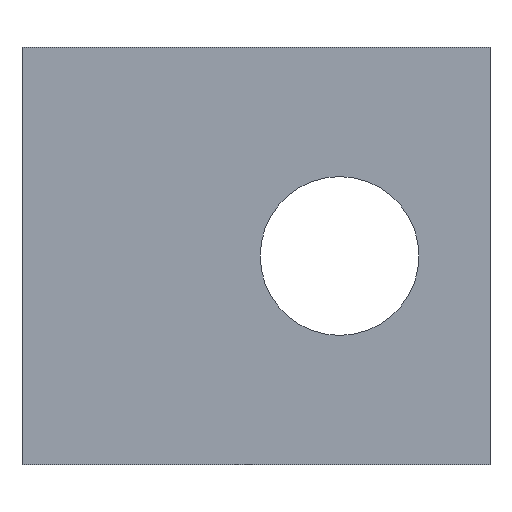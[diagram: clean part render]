
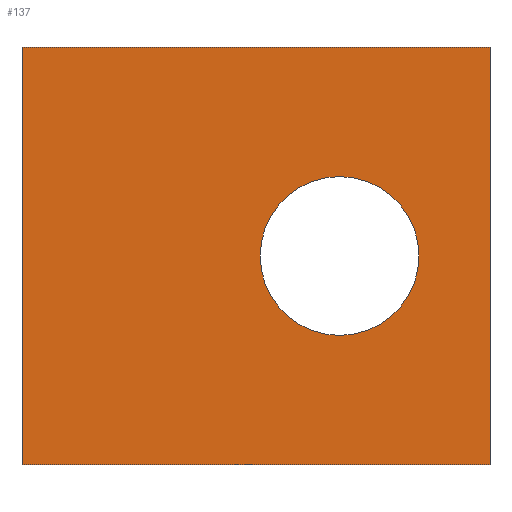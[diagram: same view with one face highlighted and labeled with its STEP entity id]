
A CAD part, front view. The second image highlights one B-rep face of the part: STEP entity #137.
In plain terms, the highlighted planar face has unit normal (0, -1, 0).
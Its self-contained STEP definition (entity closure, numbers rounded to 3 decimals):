
#21 = EDGE_CURVE('',#22,#24,#26,.T.);
#22 = VERTEX_POINT('',#23);
#23 = CARTESIAN_POINT('',(16.7,-4.4,20.9));
#24 = VERTEX_POINT('',#25);
#25 = CARTESIAN_POINT('',(16.7,-4.4,25.9));
#26 = SURFACE_CURVE('',#27,(#31,#43),.PCURVE_S1.);
#27 = LINE('',#28,#29);
#28 = CARTESIAN_POINT('',(16.7,-4.4,20.9));
#29 = VECTOR('',#30,1.);
#30 = DIRECTION('',(0.,0.,1.));
#31 = PCURVE('',#32,#37);
#32 = PLANE('',#33);
#33 = AXIS2_PLACEMENT_3D('',#34,#35,#36);
#34 = CARTESIAN_POINT('',(16.7,-4.4,20.9));
#35 = DIRECTION('',(1.,0.,0.));
#36 = DIRECTION('',(0.,0.,1.));
#37 = DEFINITIONAL_REPRESENTATION('',(#38),#42);
#38 = LINE('',#39,#40);
#39 = CARTESIAN_POINT('',(0.,0.));
#40 = VECTOR('',#41,1.);
#41 = DIRECTION('',(1.,0.));
#42 = ( GEOMETRIC_REPRESENTATION_CONTEXT(2) 
PARAMETRIC_REPRESENTATION_CONTEXT() REPRESENTATION_CONTEXT('2D SPACE',''
  ) );
#43 = PCURVE('',#44,#49);
#44 = PLANE('',#45);
#45 = AXIS2_PLACEMENT_3D('',#46,#47,#48);
#46 = CARTESIAN_POINT('',(16.7,-4.4,20.9));
#47 = DIRECTION('',(0.,1.,0.));
#48 = DIRECTION('',(0.,0.,1.));
#49 = DEFINITIONAL_REPRESENTATION('',(#50),#54);
#50 = LINE('',#51,#52);
#51 = CARTESIAN_POINT('',(0.,0.));
#52 = VECTOR('',#53,1.);
#53 = DIRECTION('',(1.,0.));
#54 = ( GEOMETRIC_REPRESENTATION_CONTEXT(2) 
PARAMETRIC_REPRESENTATION_CONTEXT() REPRESENTATION_CONTEXT('2D SPACE',''
  ) );
#72 = PLANE('',#73);
#73 = AXIS2_PLACEMENT_3D('',#74,#75,#76);
#74 = CARTESIAN_POINT('',(16.7,-4.4,20.9));
#75 = DIRECTION('',(0.,0.,1.));
#76 = DIRECTION('',(1.,0.,0.));
#126 = PLANE('',#127);
#127 = AXIS2_PLACEMENT_3D('',#128,#129,#130);
#128 = CARTESIAN_POINT('',(16.7,-4.4,25.9));
#129 = DIRECTION('',(0.,0.,1.));
#130 = DIRECTION('',(1.,0.,0.));
#137 = ADVANCED_FACE('',(#138,#213),#44,.F.);
#138 = FACE_BOUND('',#139,.F.);
#139 = EDGE_LOOP('',(#140,#163,#164,#187));
#140 = ORIENTED_EDGE('',*,*,#141,.F.);
#141 = EDGE_CURVE('',#22,#142,#144,.T.);
#142 = VERTEX_POINT('',#143);
#143 = CARTESIAN_POINT('',(22.3,-4.4,20.9));
#144 = SURFACE_CURVE('',#145,(#149,#156),.PCURVE_S1.);
#145 = LINE('',#146,#147);
#146 = CARTESIAN_POINT('',(16.7,-4.4,20.9));
#147 = VECTOR('',#148,1.);
#148 = DIRECTION('',(1.,0.,0.));
#149 = PCURVE('',#44,#150);
#150 = DEFINITIONAL_REPRESENTATION('',(#151),#155);
#151 = LINE('',#152,#153);
#152 = CARTESIAN_POINT('',(0.,0.));
#153 = VECTOR('',#154,1.);
#154 = DIRECTION('',(0.,1.));
#155 = ( GEOMETRIC_REPRESENTATION_CONTEXT(2) 
PARAMETRIC_REPRESENTATION_CONTEXT() REPRESENTATION_CONTEXT('2D SPACE',''
  ) );
#156 = PCURVE('',#72,#157);
#157 = DEFINITIONAL_REPRESENTATION('',(#158),#162);
#158 = LINE('',#159,#160);
#159 = CARTESIAN_POINT('',(0.,0.));
#160 = VECTOR('',#161,1.);
#161 = DIRECTION('',(1.,0.));
#162 = ( GEOMETRIC_REPRESENTATION_CONTEXT(2) 
PARAMETRIC_REPRESENTATION_CONTEXT() REPRESENTATION_CONTEXT('2D SPACE',''
  ) );
#163 = ORIENTED_EDGE('',*,*,#21,.T.);
#164 = ORIENTED_EDGE('',*,*,#165,.T.);
#165 = EDGE_CURVE('',#24,#166,#168,.T.);
#166 = VERTEX_POINT('',#167);
#167 = CARTESIAN_POINT('',(22.3,-4.4,25.9));
#168 = SURFACE_CURVE('',#169,(#173,#180),.PCURVE_S1.);
#169 = LINE('',#170,#171);
#170 = CARTESIAN_POINT('',(16.7,-4.4,25.9));
#171 = VECTOR('',#172,1.);
#172 = DIRECTION('',(1.,0.,0.));
#173 = PCURVE('',#44,#174);
#174 = DEFINITIONAL_REPRESENTATION('',(#175),#179);
#175 = LINE('',#176,#177);
#176 = CARTESIAN_POINT('',(5.,0.));
#177 = VECTOR('',#178,1.);
#178 = DIRECTION('',(0.,1.));
#179 = ( GEOMETRIC_REPRESENTATION_CONTEXT(2) 
PARAMETRIC_REPRESENTATION_CONTEXT() REPRESENTATION_CONTEXT('2D SPACE',''
  ) );
#180 = PCURVE('',#126,#181);
#181 = DEFINITIONAL_REPRESENTATION('',(#182),#186);
#182 = LINE('',#183,#184);
#183 = CARTESIAN_POINT('',(0.,0.));
#184 = VECTOR('',#185,1.);
#185 = DIRECTION('',(1.,0.));
#186 = ( GEOMETRIC_REPRESENTATION_CONTEXT(2) 
PARAMETRIC_REPRESENTATION_CONTEXT() REPRESENTATION_CONTEXT('2D SPACE',''
  ) );
#187 = ORIENTED_EDGE('',*,*,#188,.F.);
#188 = EDGE_CURVE('',#142,#166,#189,.T.);
#189 = SURFACE_CURVE('',#190,(#194,#201),.PCURVE_S1.);
#190 = LINE('',#191,#192);
#191 = CARTESIAN_POINT('',(22.3,-4.4,20.9));
#192 = VECTOR('',#193,1.);
#193 = DIRECTION('',(0.,0.,1.));
#194 = PCURVE('',#44,#195);
#195 = DEFINITIONAL_REPRESENTATION('',(#196),#200);
#196 = LINE('',#197,#198);
#197 = CARTESIAN_POINT('',(0.,5.6));
#198 = VECTOR('',#199,1.);
#199 = DIRECTION('',(1.,0.));
#200 = ( GEOMETRIC_REPRESENTATION_CONTEXT(2) 
PARAMETRIC_REPRESENTATION_CONTEXT() REPRESENTATION_CONTEXT('2D SPACE',''
  ) );
#201 = PCURVE('',#202,#207);
#202 = PLANE('',#203);
#203 = AXIS2_PLACEMENT_3D('',#204,#205,#206);
#204 = CARTESIAN_POINT('',(22.3,-4.4,20.9));
#205 = DIRECTION('',(1.,0.,0.));
#206 = DIRECTION('',(0.,0.,1.));
#207 = DEFINITIONAL_REPRESENTATION('',(#208),#212);
#208 = LINE('',#209,#210);
#209 = CARTESIAN_POINT('',(0.,0.));
#210 = VECTOR('',#211,1.);
#211 = DIRECTION('',(1.,0.));
#212 = ( GEOMETRIC_REPRESENTATION_CONTEXT(2) 
PARAMETRIC_REPRESENTATION_CONTEXT() REPRESENTATION_CONTEXT('2D SPACE',''
  ) );
#213 = FACE_BOUND('',#214,.F.);
#214 = EDGE_LOOP('',(#215));
#215 = ORIENTED_EDGE('',*,*,#216,.F.);
#216 = EDGE_CURVE('',#217,#217,#219,.T.);
#217 = VERTEX_POINT('',#218);
#218 = CARTESIAN_POINT('',(21.45,-4.4,23.4));
#219 = SURFACE_CURVE('',#220,(#225,#232),.PCURVE_S1.);
#220 = CIRCLE('',#221,0.95);
#221 = AXIS2_PLACEMENT_3D('',#222,#223,#224);
#222 = CARTESIAN_POINT('',(20.5,-4.4,23.4));
#223 = DIRECTION('',(-0.,1.,0.));
#224 = DIRECTION('',(1.,0.,0.));
#225 = PCURVE('',#44,#226);
#226 = DEFINITIONAL_REPRESENTATION('',(#227),#231);
#227 = CIRCLE('',#228,0.95);
#228 = AXIS2_PLACEMENT_2D('',#229,#230);
#229 = CARTESIAN_POINT('',(2.5,3.8));
#230 = DIRECTION('',(0.,1.));
#231 = ( GEOMETRIC_REPRESENTATION_CONTEXT(2) 
PARAMETRIC_REPRESENTATION_CONTEXT() REPRESENTATION_CONTEXT('2D SPACE',''
  ) );
#232 = PCURVE('',#233,#238);
#233 = CYLINDRICAL_SURFACE('',#234,0.95);
#234 = AXIS2_PLACEMENT_3D('',#235,#236,#237);
#235 = CARTESIAN_POINT('',(20.5,-3.,23.4));
#236 = DIRECTION('',(-0.,1.,-0.));
#237 = DIRECTION('',(1.,0.,0.));
#238 = DEFINITIONAL_REPRESENTATION('',(#239),#243);
#239 = LINE('',#240,#241);
#240 = CARTESIAN_POINT('',(-6.283,-1.4));
#241 = VECTOR('',#242,1.);
#242 = DIRECTION('',(1.,-0.));
#243 = ( GEOMETRIC_REPRESENTATION_CONTEXT(2) 
PARAMETRIC_REPRESENTATION_CONTEXT() REPRESENTATION_CONTEXT('2D SPACE',''
  ) );
